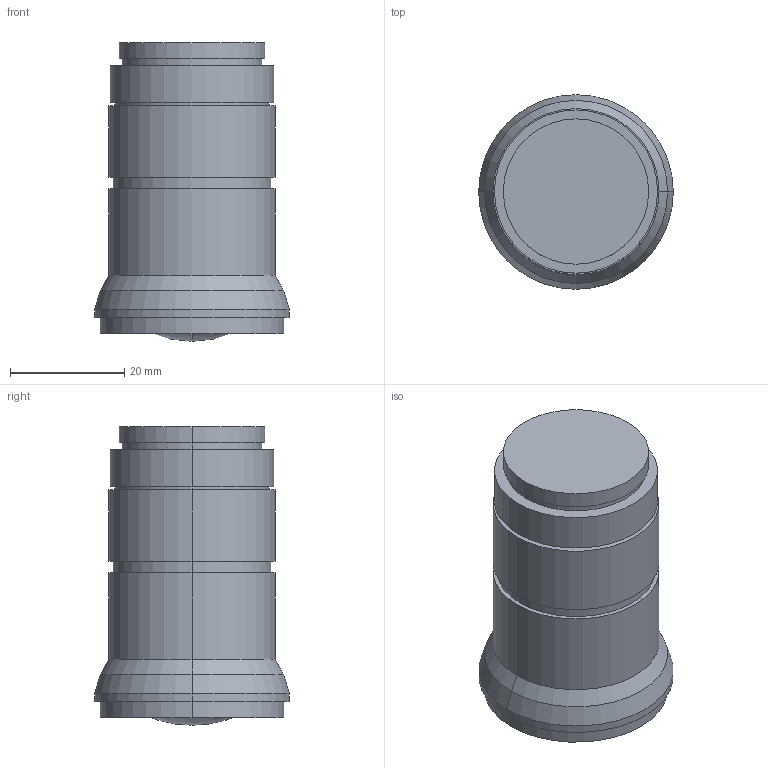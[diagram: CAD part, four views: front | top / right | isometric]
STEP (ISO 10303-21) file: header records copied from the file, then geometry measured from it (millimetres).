
FILE_DESCRIPTION (( 'STEP AP214' ), '1' );
FILE_NAME ('TF2.8DA.STEP', '2017-09-15T06:48:36', ( '富士フイルム株式会社' ), ( '富士フイルム株式会社' ), 'SwSTEP 2.0', 'SolidWorks 2014', '' );
FILE_SCHEMA (( 'AUTOMOTIVE_DESIGN' ));
Length unit declared in the file: millimetre
Products named in the file (1): TF2.8DA
Bounding box: 34 x 34 x 52.13 mm (x, y, z)
Volume: 33356.4 mm3; surface area: 7031.4 mm2
Topology: 1 solids, 1 shells, 42 faces, 84 edges, 53 vertices
Faces by surface type: cylinder 22, plane 10, cone 8, sphere 2
Entity records: 1144 total; most frequent: DIRECTION 224, CARTESIAN_POINT 180, ORIENTED_EDGE 168, AXIS2_PLACEMENT_3D 97, EDGE_CURVE 84, CIRCLE 54, VERTEX_POINT 53, EDGE_LOOP 51
